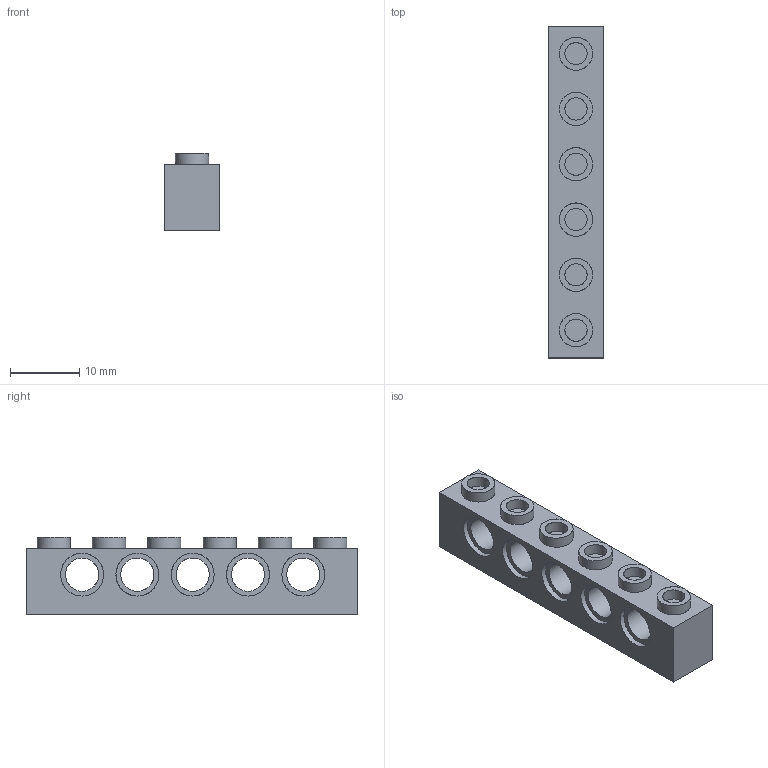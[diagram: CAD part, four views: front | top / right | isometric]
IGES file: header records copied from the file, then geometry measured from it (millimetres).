
Start section: C
Global section: file name: Ye_389424_MCM.iges; native system: By Siemens PLM Incorporated; preprocessor: XPlus GENERIC/IGES 26.1.183; author: Author; organization: Title; date: 20250722.000556; units: millimetre
Bounding box: 8 x 48 x 11.2 mm (x, y, z)
Surface area: 3343.8 mm2 (no closed solid volume)
Topology: 0 solids, 0 shells, 95 faces, 538 edges, 538 vertices
Faces by surface type: bspline 95
